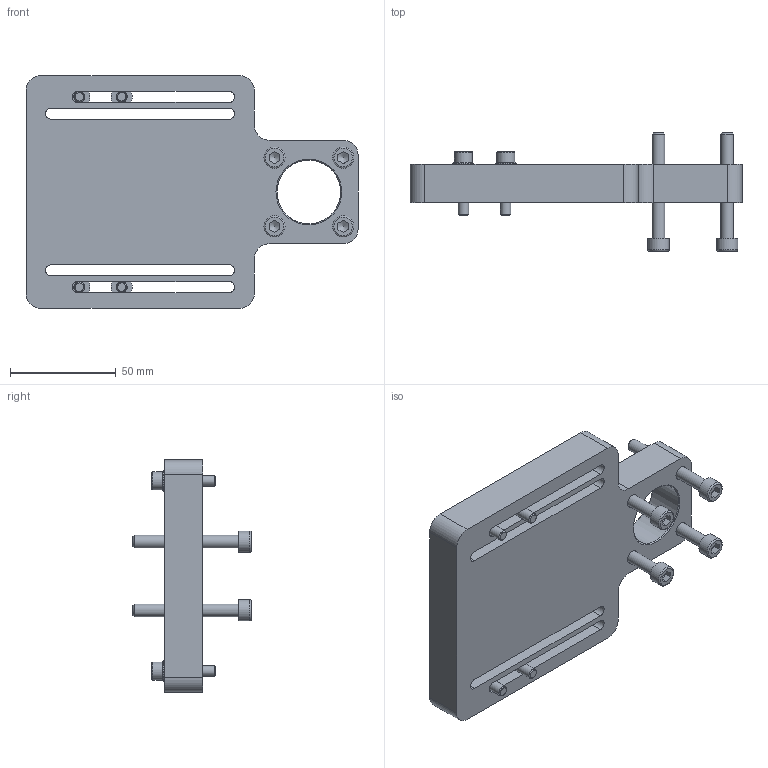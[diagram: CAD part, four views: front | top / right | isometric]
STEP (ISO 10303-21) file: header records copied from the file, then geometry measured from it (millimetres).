
FILE_DESCRIPTION(/* description */ ('Outrigger Plate ETH032 with Outrigger bearing'),/* implementation_level */ '2;1');
FILE_NAME(/* name */ 'D:\InventorWorkspace2017\CAD\Projekte_EDEM\HLR\Zubehörteile\0232.034-02.stp',/* time_stamp */ '2019-02-13T13:18:57+01:00',/* author */ ('544672'),/* organization */ (''),/* preprocessor_version */ 'ST-DEVELOPER v16.5',/* originating_system */ 'Autodesk Inventor 2017',/* authorisation */ '');
FILE_SCHEMA (('AUTOMOTIVE_DESIGN { 1 0 10303 214 3 1 1 }'));
Length unit declared in the file: millimetre
Products named in the file (5): 0232.034-02; 0231.026; 135-721033; 130-302351; 135-728812
Assembly tree (13 placements, depth 2):
  0232.034-02
    0231.026
    135-721033  x4
    135-728812  x4
    130-302351  x4
Bounding box: 157 x 56 x 110 mm (x, y, z)
Volume: 220621.8 mm3; surface area: 56680.5 mm2
Topology: 13 solids, 13 shells, 181 faces, 408 edges, 261 vertices
Faces by surface type: plane 98, cylinder 45, cone 22, torus 16
Full cylindrical faces by diameter (mm): 5 x4, 5.3 x4, 6 x4, 6.6 x4, 8.5 x4, 10 x8, 30.1 x1
Entity records: 2383 total; most frequent: DIRECTION 402, CARTESIAN_POINT 400, ORIENTED_EDGE 326, EDGE_CURVE 163, AXIS2_PLACEMENT_3D 157, EDGE_LOOP 120, VERTEX_POINT 119, LINE 88
